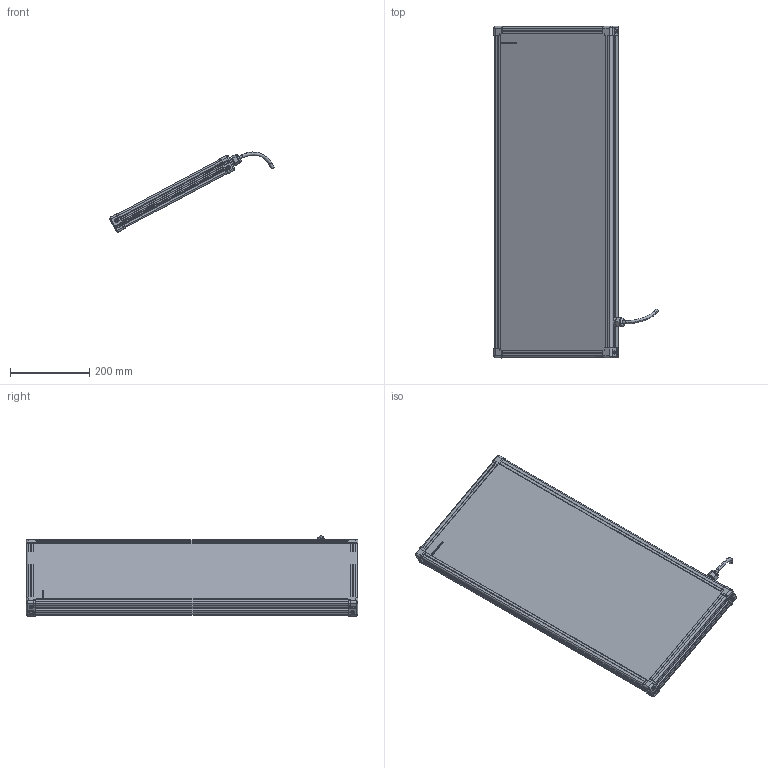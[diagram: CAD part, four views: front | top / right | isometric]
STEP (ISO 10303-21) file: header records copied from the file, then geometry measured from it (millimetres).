
FILE_DESCRIPTION (( 'STEP AP214' ), '1' );
FILE_NAME ('EFFI-BL-300-800-ZZZ.STEP', '2021-06-10T08:57:49', ( '' ), ( '' ), 'SwSTEP 2.0', 'SolidWorks 2021', '' );
FILE_SCHEMA (( 'AUTOMOTIVE_DESIGN' ));
Length unit declared in the file: millimetre
Products named in the file (9): EFFI-BL-300-800-ZZZ; petite joue + vis; 000629; profile Y_PERCE; profile X_PERCE; Pièce13^EFFI-BL-XXX-YYY-ZZZ (1 connecteur) M12POWER; petite joue; M12 power_AVEC CABLE D8.1
Assembly tree (13 placements, depth 3):
  EFFI-BL-300-800-ZZZ
    profile X_PERCE  x2
    profile Y_PERCE
    profile Y_PERCE
    Pièce13^EFFI-BL-XXX-YYY-ZZZ (1 connecteur) M12POWER
    petite joue + vis  x4
      petite joue
      000629
    M12 power_AVEC CABLE D8.1
Bounding box: 414.9 x 839 x 202.6 mm (x, y, z)
Volume: 9872871.4 mm3; surface area: 913091.1 mm2
Topology: 17 solids, 20 shells, 3578 faces, 9609 edges, 6361 vertices
Faces by surface type: plane 2380, bspline 591, cylinder 583, cone 20, torus 4
Entity records: 49711 total; most frequent: CARTESIAN_POINT 21554, ORIENTED_EDGE 6036, DIRECTION 4529, EDGE_CURVE 3020, LINE 2261, VECTOR 2261, VERTEX_POINT 2008, EDGE_LOOP 1222
